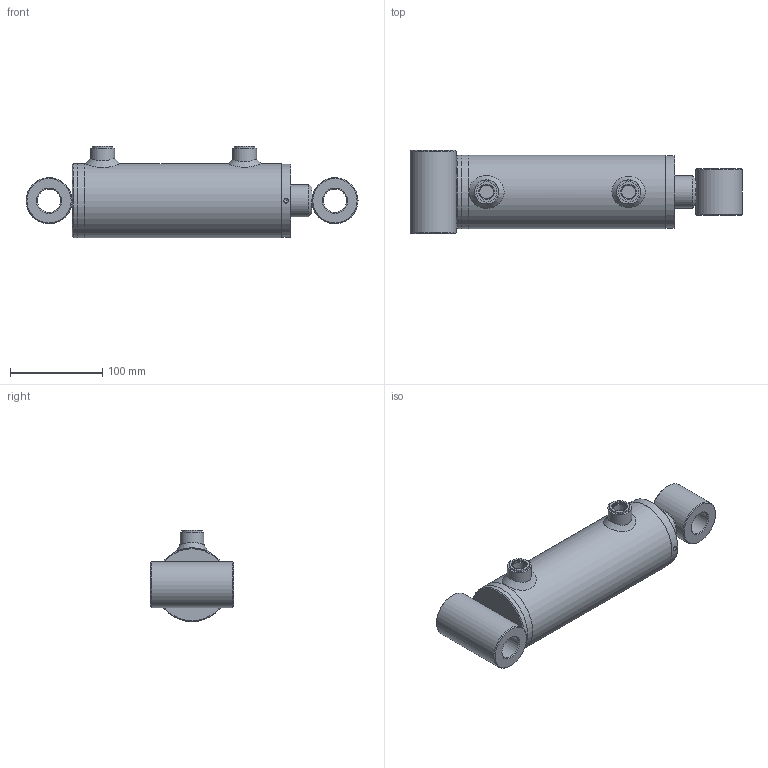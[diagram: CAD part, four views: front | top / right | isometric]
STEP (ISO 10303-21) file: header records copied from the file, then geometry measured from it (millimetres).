
FILE_DESCRIPTION( ( 'Unknown' ), '1' );
FILE_NAME( 'E:/LIBRERIA_3d/CILINDRI/HM2/HM24350100.stp', 'Unknown', ( 'Unknown' ), ( 'Unknown' ), 'PSStep 17.0.49', 'Unknown', ' ' );
FILE_SCHEMA( ( 'AUTOMOTIVE_DESIGN { 1 0 10303 214 1 1 1 1 }' ) );
Length unit declared in the file: millimetre
Products named in the file (22): CT00070020; CG08007035; STL4500100-oa4; Saldatura d'angolo 1-oa2; FTM4500100-oa3; CBSC220600; HM04350100; Saldatura con preparazione 1-oa0; Saldatura d'angolo 1-oa1; CF00070080; CBS0600000; APG0600000; SBL3530100; CDA0002015; Assem1; CB25050050; CB25050090
Assembly tree (18 placements, depth 4):
  Saldatura d'angolo 1-oa2
  Saldatura d'angolo 1-oa2
  Saldatura d'angolo 1-oa1
  Saldatura d'angolo 1-oa1
  Assem1
    CB25050050
    CB25050090
    HM04350100
      Saldatura con preparazione 1-oa0
      Saldatura con preparazione 1-oa0
      CF00070080
      CBS0600000
      APG0600000  x2
      SBL3530100
      CDA0002015
      CG08007035
        CG08007035
      CT00070020
        CT00070020
      STL4500100-oa4
        FTM4500100-oa3
        CBSC220600
Bounding box: 360 x 90 x 99 mm (x, y, z)
Volume: 1003312.6 mm3; surface area: 260675.5 mm2
Topology: 18 solids, 18 shells, 210 faces, 422 edges, 261 vertices
Faces by surface type: plane 62, cylinder 59, cone 40, torus 37, bspline 12
Full cylindrical faces by diameter (mm): 4.25 x1, 5 x2, 6 x2, 7 x2, 14.95 x2, 16 x2, 16.6 x2, 19.4 x1, 20 x5, 22 x2, 24.5 x1, 25.25 x2, 26 x2, 30 x1, 35 x4, 37 x1, 38 x1, 43.6 x1, 45 x1, 50 x3, 64.18 x2, 65 x1, 68.34 x2, 69.9 x1, 70 x1, 70.3 x1, 70.5 x1, 70.6 x1, 71 x1, 72 x3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
Entity records: 9536 total; most frequent: CARTESIAN_POINT 4367, DIRECTION 802, ORIENTED_EDGE 438, AXIS2_PLACEMENT_3D 389, EDGE_LOOP 384, FACE_OUTER_BOUND 302, EDGE_CURVE 219, VERTEX_POINT 210
